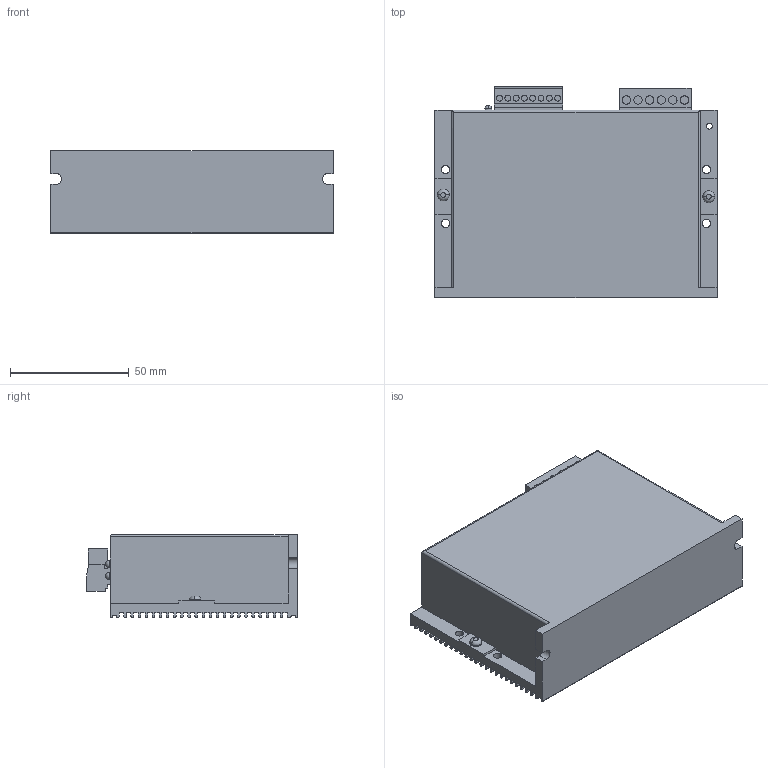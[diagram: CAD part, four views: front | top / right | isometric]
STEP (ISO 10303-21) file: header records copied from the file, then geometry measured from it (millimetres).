
FILE_DESCRIPTION (( 'STEP AP203' ), '1' );
FILE_NAME ('R86MINI.STEP', '2023-10-20T07:49:19', ( '' ), ( '' ), 'SwSTEP 2.0', 'SolidWorks 2020', '' );
FILE_SCHEMA (( 'CONFIG_CONTROL_DESIGN' ));
Length unit declared in the file: millimetre
Products named in the file (1): R86MINI
Bounding box: 119 x 89 x 35 mm (x, y, z)
Volume: 291781 mm3; surface area: 47607.6 mm2
Topology: 1 solids, 1 shells, 460 faces, 1253 edges, 828 vertices
Faces by surface type: plane 335, cylinder 116, torus 5, sphere 4
Entity records: 14646 total; most frequent: CARTESIAN_POINT 2782, ORIENTED_EDGE 2490, DIRECTION 2372, EDGE_CURVE 1245, VECTOR 978, LINE 978, VERTEX_POINT 824, AXIS2_PLACEMENT_3D 697
